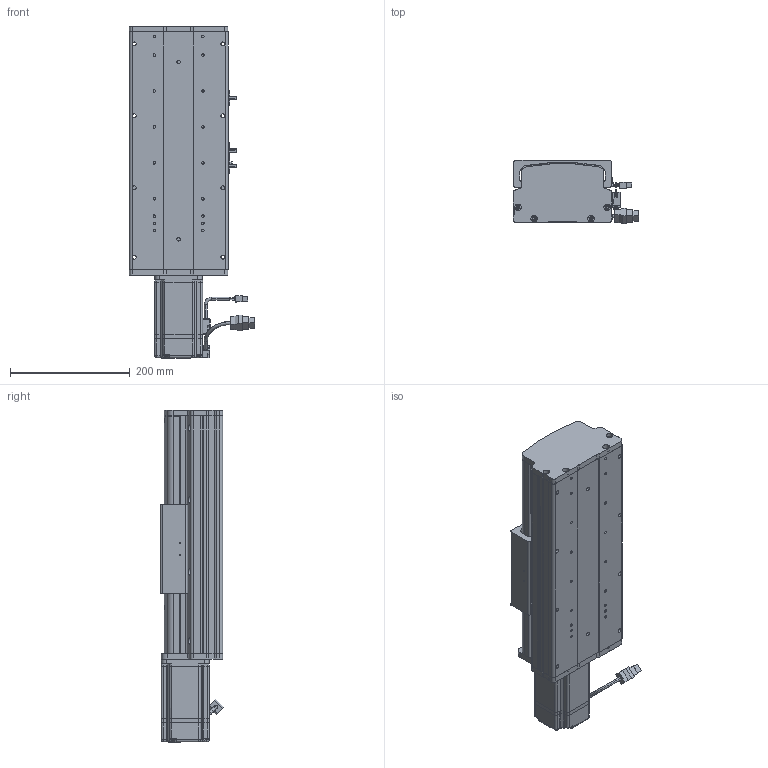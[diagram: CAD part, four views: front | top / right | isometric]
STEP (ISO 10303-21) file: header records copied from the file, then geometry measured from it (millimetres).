
FILE_DESCRIPTION (( 'STEP AP214' ), '1' );
FILE_NAME ('KSD165S-S100-MN-CM .STEP', '2017-08-07T08:01:39', ( '微软用户' ), ( '微软中国' ), 'SwSTEP 2.0', 'SolidWorks 2014', '' );
FILE_SCHEMA (( 'AUTOMOTIVE_DESIGN' ));
Length unit declared in the file: millimetre
Products named in the file (12): KSD165S-S100-MN-CM  ; KSD165模组-防尘盖1-100行程-直连不带电机座; KSD165模组底板-100行程-直连不带电机座; KSD165模组-直连不带电机座电机连接板; KSD165耀郪-佪裝-滅袉菜-3 -; ECMA-CX0807ES; C44ㄜ1912WP; 覜茼え68遵圉猾敕; U倰嫖萇假蚾璃; U倰嫖萇EEㄜSX672; KSD165耀郪-綴傷啣1; KSD165模组-丝杆滑动座-最新版
Assembly tree (15 placements, depth 2):
  KSD165S-S100-MN-CM  
    KSD165模组-丝杆滑动座-最新版
    KSD165耀郪-綴傷啣1
    U倰嫖萇EEㄜSX672  x3
    U倰嫖萇假蚾璃  x3
    覜茼え68遵圉猾敕
    C44ㄜ1912WP
    ECMA-CX0807ES
    KSD165耀郪-佪裝-滅袉菜-3 -
    KSD165模组-直连不带电机座电机连接板
    KSD165模组底板-100行程-直连不带电机座
    KSD165模组-防尘盖1-100行程-直连不带电机座
Bounding box: 209.77 x 105.74 x 554.3 mm (x, y, z)
Volume: 3800381.9 mm3; surface area: 799178.3 mm2
Topology: 16 solids, 16 shells, 1547 faces, 4244 edges, 2724 vertices
Faces by surface type: cylinder 725, plane 653, cone 106, bspline 63
Entity records: 58429 total; most frequent: CARTESIAN_POINT 17292, ORIENTED_EDGE 7164, DIRECTION 6570, EDGE_CURVE 3582, AXIS2_PLACEMENT_3D 2399, VERTEX_POINT 2316, LINE 1772, VECTOR 1772
